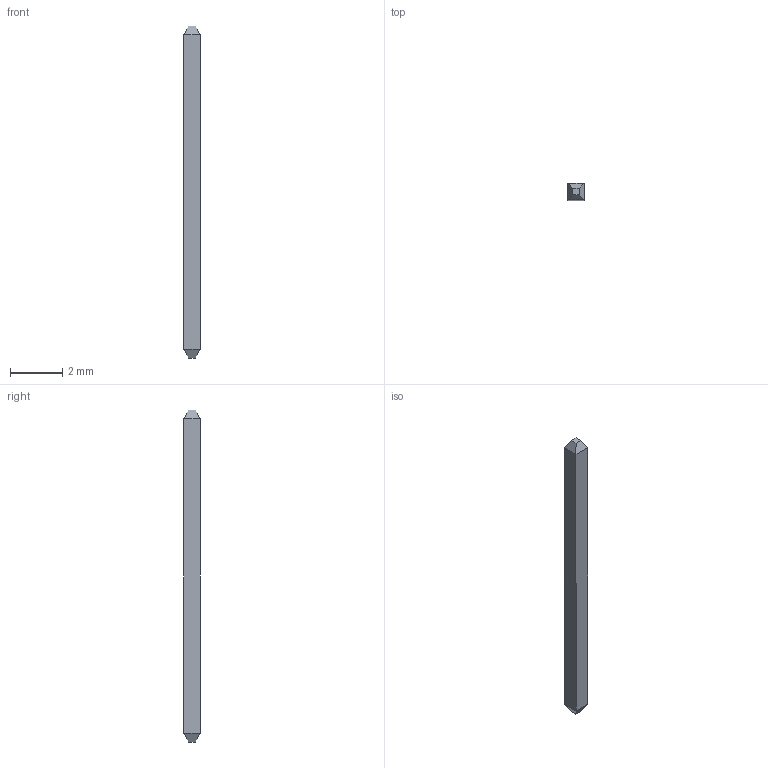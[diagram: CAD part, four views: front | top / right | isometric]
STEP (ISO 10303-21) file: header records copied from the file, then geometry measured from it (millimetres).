
FILE_DESCRIPTION(/* description */ ('STEP AP242 Edition 2','CAx-IF Rec.Pracs.---Representation and Presentation of Product Manufacturing Information (PMI)---4.0---2014-10-13','CAx-IF Rec.Pracs.---3D Tessellated Geometry---0.4---2014-09-14','2;1','CAx-IF Rec.Pracs.---User Defined Attributes---1.5---2016-08-15'),/* implementation_level */ '2;1');
FILE_NAME(/* name */ 'Drone Layout - Surface 410',/* time_stamp */ '2026-10-04T22:22:59Z',/* author */ (''),/* organization */ (''),/* preprocessor_version */ 'ST-DEVELOPER v20',/* originating_system */ 'ONSHAPE BY PTC INC, 1.221',/* authorisation */ ' ');
FILE_SCHEMA (('AP242_MANAGED_MODEL_BASED_3D_ENGINEERING_MIM_LF { 1 0 10303 442 3 1 4 }'));
Length unit declared in the file: metre
Products named in the file (1): 1x6 TH Pitch 2.54mm v1:1__Body2
Bounding box: 0.63 x 0.63 x 12.7 mm (x, y, z)
Volume: 4.9 mm3; surface area: 31.8 mm2
Topology: 1 solids, 1 shells, 14 faces, 28 edges, 16 vertices
Faces by surface type: plane 14
Entity records: 361 total; most frequent: CARTESIAN_POINT 59, DIRECTION 58, ORIENTED_EDGE 56, EDGE_CURVE 28, LINE 28, VECTOR 28, VERTEX_POINT 16, AXIS2_PLACEMENT_3D 15
